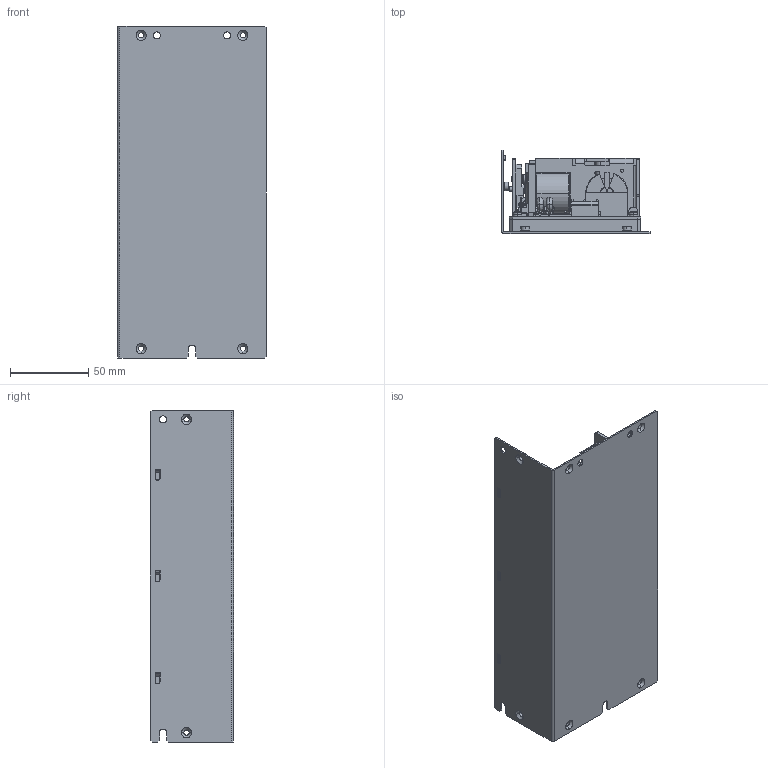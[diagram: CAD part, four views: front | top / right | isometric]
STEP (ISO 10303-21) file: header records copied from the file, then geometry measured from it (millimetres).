
FILE_DESCRIPTION (( 'STEP AP214' ), '1' );
FILE_NAME ('zws300baf_l_outline.STEP', '2015-10-17T02:08:51', ( 'tluser' ), ( '' ), 'SwSTEP 2.0', 'SolidWorks 2013', '' );
FILE_SCHEMA (( 'AUTOMOTIVE_DESIGN' ));
Length unit declared in the file: millimetre
Products named in the file (1): zws300baf_l_outline
Bounding box: 95 x 53 x 212 mm (x, y, z)
Volume: 323248.9 mm3; surface area: 149687.7 mm2
Topology: 1 solids, 1 shells, 2495 faces, 6781 edges, 4326 vertices
Faces by surface type: plane 1497, cylinder 655, bspline 190, cone 153
Entity records: 110435 total; most frequent: CARTESIAN_POINT 19876, ORIENTED_EDGE 13514, DIRECTION 12801, EDGE_CURVE 6757, VERTEX_POINT 4326, AXIS2_PLACEMENT_3D 4289, LINE 4223, VECTOR 4223
